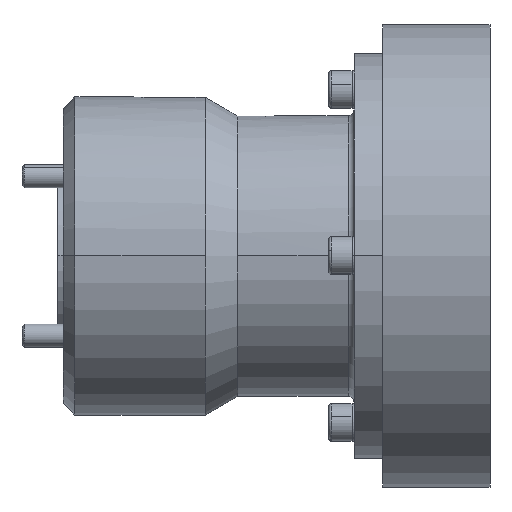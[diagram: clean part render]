
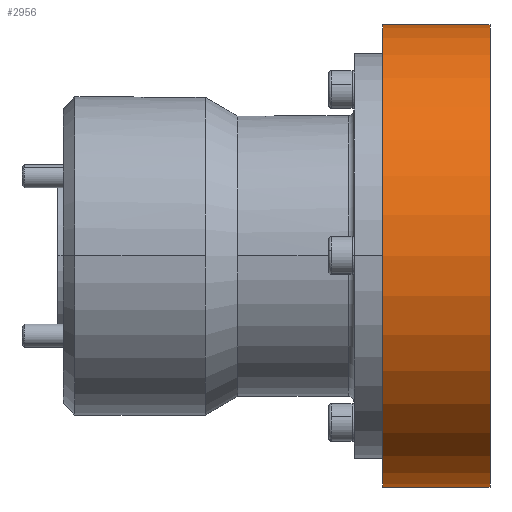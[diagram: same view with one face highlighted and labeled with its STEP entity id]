
A CAD part, top view. The second image highlights one B-rep face of the part: STEP entity #2956.
In plain terms, the highlighted cylindrical face has radius 80 mm (diameter 160 mm), a partial arc.
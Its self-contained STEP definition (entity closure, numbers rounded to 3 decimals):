
#103 = VERTEX_POINT ( 'NONE', #2496 ) ;
#446 = DIRECTION ( 'NONE',  ( 0., 1., 0. ) ) ;
#782 = ORIENTED_EDGE ( 'NONE', *, *, #9859, .T. ) ;
#800 = VERTEX_POINT ( 'NONE', #3133 ) ;
#1135 = DIRECTION ( 'NONE',  ( 0., 1., 0. ) ) ;
#1190 = FACE_OUTER_BOUND ( 'NONE', #3438, .T. ) ;
#1389 = DIRECTION ( 'NONE',  ( 0., 1., 0. ) ) ;
#1669 = DIRECTION ( 'NONE',  ( 1., 0., 0. ) ) ;
#1779 = CARTESIAN_POINT ( 'NONE',  ( 193., 71., 30.5 ) ) ;
#2496 = CARTESIAN_POINT ( 'NONE',  ( 230., 151., 30.5 ) ) ;
#2506 = CARTESIAN_POINT ( 'NONE',  ( 193., 151., 30.5 ) ) ;
#2538 = CARTESIAN_POINT ( 'NONE',  ( 193., -9., 30.5 ) ) ;
#2798 = CYLINDRICAL_SURFACE ( 'NONE', #7599, 80. ) ;
#2956 = ADVANCED_FACE ( 'NONE', ( #1190 ), #2798, .T. ) ;
#3045 = EDGE_CURVE ( 'NONE', #4828, #800, #8042, .T. ) ;
#3133 = CARTESIAN_POINT ( 'NONE',  ( 230., -9., 30.5 ) ) ;
#3397 = DIRECTION ( 'NONE',  ( 1., 0., 0. ) ) ;
#3438 = EDGE_LOOP ( 'NONE', ( #782, #8965, #9034, #5013 ) ) ;
#3499 = CIRCLE ( 'NONE', #6676, 80. ) ;
#3515 = VERTEX_POINT ( 'NONE', #2506 ) ;
#4093 = CARTESIAN_POINT ( 'NONE',  ( 211.5, 71., 30.5 ) ) ;
#4247 = DIRECTION ( 'NONE',  ( 1., 0., 0. ) ) ;
#4758 = VECTOR ( 'NONE', #7464, 1000. ) ;
#4828 = VERTEX_POINT ( 'NONE', #2538 ) ;
#5013 = ORIENTED_EDGE ( 'NONE', *, *, #5029, .F. ) ;
#5029 = EDGE_CURVE ( 'NONE', #3515, #103, #8899, .T. ) ;
#5184 = DIRECTION ( 'NONE',  ( 1., 0., 0. ) ) ;
#5778 = CARTESIAN_POINT ( 'NONE',  ( 211.5, -9., 30.5 ) ) ;
#6676 = AXIS2_PLACEMENT_3D ( 'NONE', #1779, #1669, #1135 ) ;
#6742 = AXIS2_PLACEMENT_3D ( 'NONE', #9156, #5184, #1389 ) ;
#7428 = VECTOR ( 'NONE', #4247, 1000. ) ;
#7464 = DIRECTION ( 'NONE',  ( 1., 0., 0. ) ) ;
#7599 = AXIS2_PLACEMENT_3D ( 'NONE', #4093, #3397, #446 ) ;
#8042 = LINE ( 'NONE', #5778, #7428 ) ;
#8532 = CIRCLE ( 'NONE', #6742, 80. ) ;
#8899 = LINE ( 'NONE', #9650, #4758 ) ;
#8965 = ORIENTED_EDGE ( 'NONE', *, *, #3045, .T. ) ;
#9034 = ORIENTED_EDGE ( 'NONE', *, *, #9711, .F. ) ;
#9156 = CARTESIAN_POINT ( 'NONE',  ( 230., 71., 30.5 ) ) ;
#9650 = CARTESIAN_POINT ( 'NONE',  ( 211.5, 151., 30.5 ) ) ;
#9711 = EDGE_CURVE ( 'NONE', #103, #800, #8532, .T. ) ;
#9859 = EDGE_CURVE ( 'NONE', #3515, #4828, #3499, .T. ) ;
